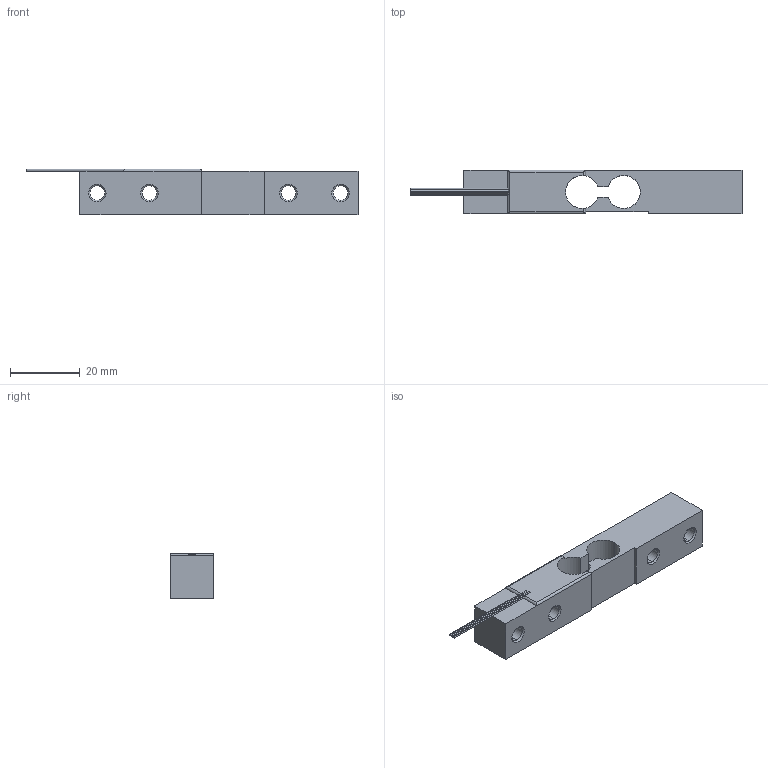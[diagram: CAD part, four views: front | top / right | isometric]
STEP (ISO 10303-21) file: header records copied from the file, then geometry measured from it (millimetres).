
FILE_DESCRIPTION (( 'STEP AP214' ), '1' );
FILE_NAME ('1002.STEP', '2023-05-23T07:21:50', ( '' ), ( '' ), 'SwSTEP 2.0', 'SolidWorks 2019', '' );
FILE_SCHEMA (( 'AUTOMOTIVE_DESIGN' ));
Length unit declared in the file: millimetre
Products named in the file (2): 1002
Bounding box: 95.5 x 12.6 x 13.2 mm (x, y, z)
Volume: 10102.2 mm3; surface area: 5545.3 mm2
Topology: 5 solids, 5 shells, 62 faces, 139 edges, 86 vertices
Faces by surface type: cylinder 24, plane 22, cone 16
Entity records: 2160 total; most frequent: DIRECTION 317, CARTESIAN_POINT 311, ORIENTED_EDGE 278, EDGE_CURVE 139, AXIS2_PLACEMENT_3D 120, VERTEX_POINT 86, VECTOR 77, LINE 77
